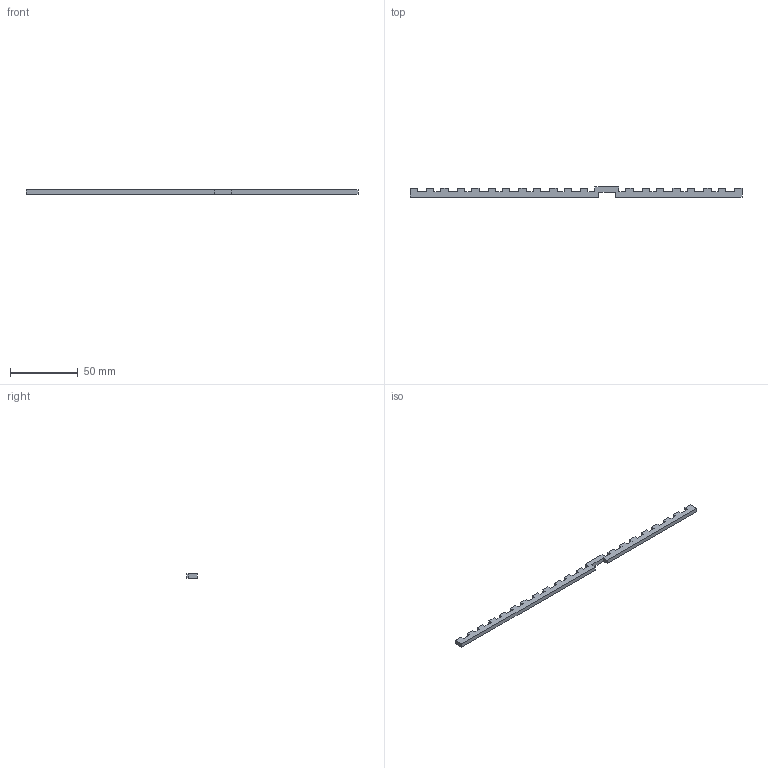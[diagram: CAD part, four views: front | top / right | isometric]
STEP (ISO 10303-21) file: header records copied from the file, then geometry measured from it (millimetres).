
FILE_DESCRIPTION(/* description */ (''),/* implementation_level */ '2;1');
FILE_NAME(/* name */ '/Users/manuelf/box/LHCB/Backplane/spacer/2019-12-9_backplane_separator_all_files/STEP/thin_bot_sep_v3.step',/* time_stamp */ '2019-12-17T14:37:29-05:00',/* author */ (''),/* organization */ (''),/* preprocessor_version */ 'ST-DEVELOPER v18',/* originating_system */ 'Autodesk Translation Framework v8.12.0.6',/* authorisation */ '');
FILE_SCHEMA (('AUTOMOTIVE_DESIGN { 1 0 10303 214 3 1 1 }'));
Length unit declared in the file: millimetre
Products named in the file (1): thin_bot_sep_v2
Bounding box: 244.17 x 7.65 x 3 mm (x, y, z)
Volume: 3854.8 mm3; surface area: 4407.9 mm2
Topology: 1 solids, 1 shells, 90 faces, 264 edges, 176 vertices
Faces by surface type: plane 90
Entity records: 2968 total; most frequent: CARTESIAN_POINT 531, ORIENTED_EDGE 528, DIRECTION 446, LINE 264, VECTOR 264, EDGE_CURVE 264, VERTEX_POINT 176, AXIS2_PLACEMENT_3D 91
